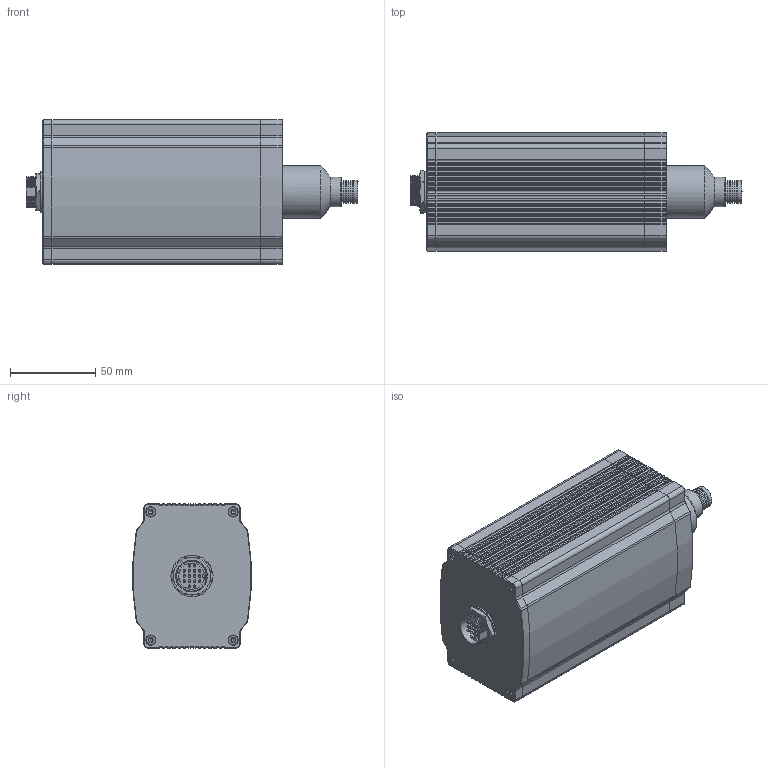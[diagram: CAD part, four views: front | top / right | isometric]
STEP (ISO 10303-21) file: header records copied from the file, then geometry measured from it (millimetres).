
FILE_DESCRIPTION(/* description */ (''),/* implementation_level */ '2;1');
FILE_NAME(/* name */ 'FI1020DC-HE.stp',/* time_stamp */ '2023-09-21T18:00:53+08:00',/* author */ (''),/* organization */ (''),/* preprocessor_version */ 'ST-DEVELOPER v16.7',/* originating_system */ 'SIEMENS PLM Software NX 12.0',/* authorisation */ '');
FILE_SCHEMA (('AUTOMOTIVE_DESIGN { 1 0 10303 214 3 1 1 1 }'));
Length unit declared in the file: millimetre
Products named in the file (1): Admi71E0876Fbrhn
Bounding box: 194.32 x 69.16 x 84.5 mm (x, y, z)
Volume: 493088.6 mm3; surface area: 147949.7 mm2
Topology: 21 solids, 24 shells, 1493 faces, 3767 edges, 2362 vertices
Faces by surface type: plane 487, cylinder 441, bspline 180, extrusion 142, cone 138, torus 65, sphere 40
Full cylindrical faces by diameter (mm): 1.5 x16, 3 x8, 3.2 x8, 4.2 x6, 4.826 x4, 5 x1, 5.5 x4, 5.86 x8, 6 x8, 8 x1, 8.5 x4, 9 x2, 9.1 x2, 10.2 x1, 10.5 x1, 12 x4, 13 x5, 14 x2, 15.4 x1, 16.2 x1, 16.8 x1, 17.5 x1, 18 x2, 19 x1, 22.6 x1, 24 x1, 24.2 x1, 31 x1, 31.1 x1, 50 x1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
Entity records: 80772 total; most frequent: CARTESIAN_POINT 48497, ORIENTED_EDGE 6816, DIRECTION 5808, EDGE_CURVE 3412, AXIS2_PLACEMENT_3D 2218, VERTEX_POINT 2215, EDGE_LOOP 1767, ADVANCED_FACE 1493
